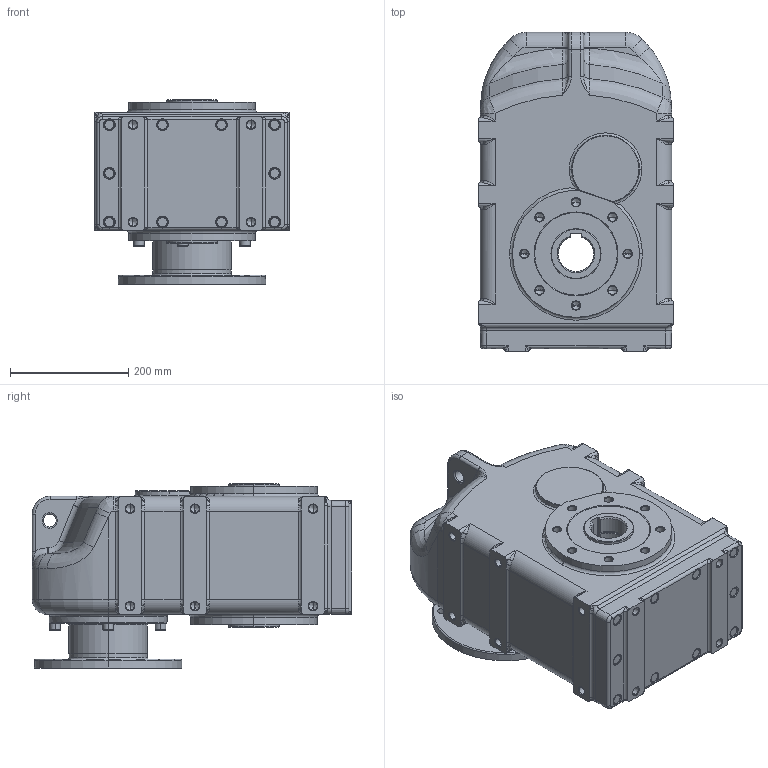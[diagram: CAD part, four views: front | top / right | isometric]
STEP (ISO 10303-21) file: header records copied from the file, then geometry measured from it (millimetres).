
FILE_DESCRIPTION (( 'STEP AP214' ), '1' );
FILE_NAME ('tnc52-f215-ap100.STEP', '2009-09-18T08:55:30', ( '' ), ( '' ), 'SwSTEP 2.0', 'SolidWorks 2003240', '' );
FILE_SCHEMA (( 'AUTOMOTIVE_DESIGN' ));
Length unit declared in the file: millimetre
Products named in the file (4): Skøíò TNC5_Skøíò TNC52 AP100; Pøíruba MRT150 kulatá _180-215-250; tnc52-f215-ap100; N021143_Šroub s vnitøním šestihranem DIN 912 - M8 x 25
Assembly tree (8 placements, depth 2):
  tnc52-f215-ap100
    Skøíò TNC5_Skøíò TNC52 AP100
    Pøíruba MRT150 kulatá _180-215-250
    N021143_Šroub s vnitøním šestihranem DIN 912 - M8 x 25  x6
Bounding box: 330 x 541 x 312 mm (x, y, z)
Volume: 34002856.7 mm3; surface area: 941984.2 mm2
Topology: 8 solids, 8 shells, 988 faces, 2276 edges, 1283 vertices
Faces by surface type: cylinder 312, cone 256, plane 187, torus 152, bspline 81
Entity records: 113658 total; most frequent: CARTESIAN_POINT 93380, DIRECTION 4345, ORIENTED_EDGE 3852, EDGE_CURVE 1926, AXIS2_PLACEMENT_3D 1812, VERTEX_POINT 1153, CIRCLE 1024, EDGE_LOOP 963
